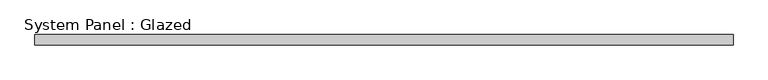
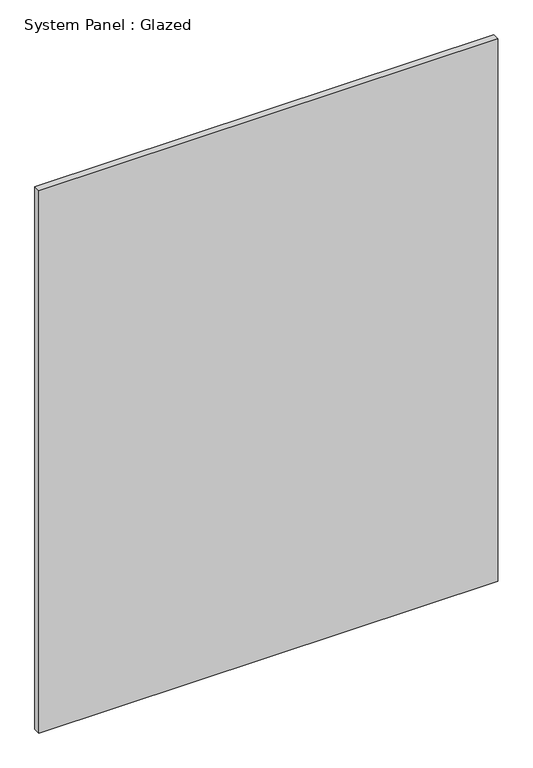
"""IFC4 building model written with IfcOpenShell, lengths in millimetres: plate geometry, System Panel : Glazed."""

from ifc_helpers import new_model, si_unit, origin, origin_with_axes, place, context, project, spatial, polyline, outline, extrude, source, transform, mapped, element, save


def system_panel_glazed_1e15f790(model_context):
    return source(origin(), model_context, "Body", "SweptSolid", [
        extrude(outline(polyline([(939.1009533, -14.0), (-939.1009533, -14.0), (-939.1009533, 14.0), (939.1009533, 14.0), (939.1009533, -14.0)])), origin_with_axes(), (0.0, 0.0, 1.0), 2347.0),
    ])


if __name__ == "__main__":
    model = new_model("IFC4")
    model_context = context("Model", 3, world=origin())
    ifc_project = project(units=[si_unit("LENGTHUNIT", "METRE", prefix="MILLI")], contexts=[model_context])
    site = spatial("IfcSite", under=ifc_project)
    building = spatial("IfcBuilding", under=site)
    placement = place(None, origin())
    system_panel_glazed_shape = system_panel_glazed_1e15f790(model_context)
    element("IfcPlate", 1, ObjectType="System Panel : Glazed", at=placement, inside=building, context=model_context, shape_type="MappedRepresentation", body=[
        mapped(system_panel_glazed_shape, transform((0.0, 0.0, 0.0), x_axis=(1.0, 0.0, 0.0), y_axis=(0.0, 1.0, 0.0), z_axis=(0.0, 0.0, 1.0))),
    ])
    save(model, "model.ifc")
